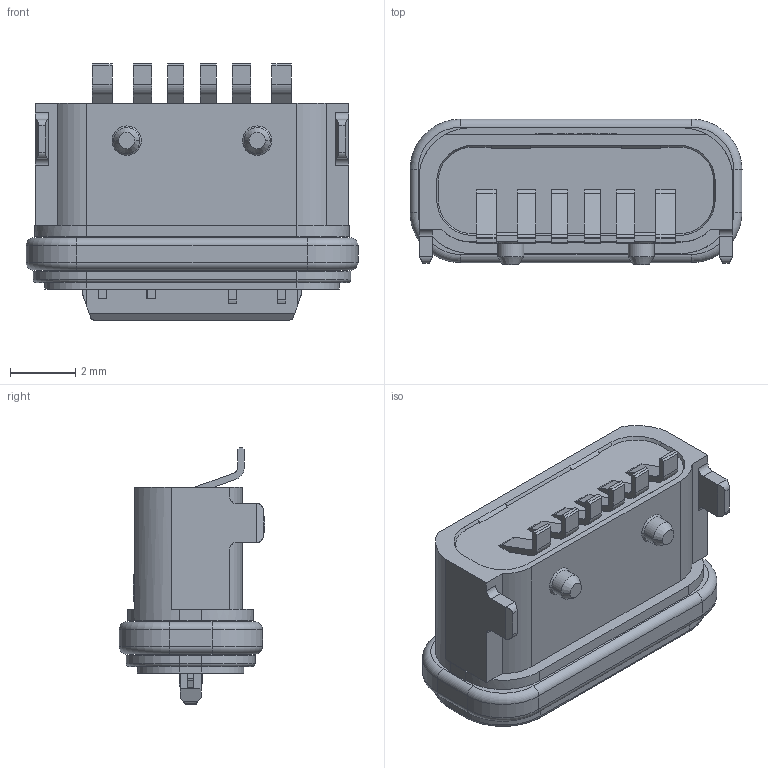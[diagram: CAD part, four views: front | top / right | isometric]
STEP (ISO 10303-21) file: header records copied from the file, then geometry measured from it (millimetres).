
FILE_DESCRIPTION (( 'STEP AP203' ), '1' );
FILE_NAME ('U5005-06PNW6.65LF.STEP', '2026-09-10T09:30:42', ( '' ), ( '' ), 'SwSTEP 2.0', 'SolidWorks 2024', '' );
FILE_SCHEMA (( 'CONFIG_CONTROL_DESIGN' ));
Length unit declared in the file: millimetre
Products named in the file (5): ASM0001_ASM_1_ASM_1_ASM; 1020008_1_1; 1020008_B_ASM_1_ASM; U5005-06PNW6.65LF; 6P_0001_1_1
Assembly tree (4 placements, depth 4):
  U5005-06PNW6.65LF
    1020008_B_ASM_1_ASM
      ASM0001_ASM_1_ASM_1_ASM
        1020008_1_1
        6P_0001_1_1
Bounding box: 10.18 x 4.47 x 7.85 mm (x, y, z)
Volume: 135.9 mm3; surface area: 535 mm2
Topology: 2 solids, 2 shells, 830 faces, 2193 edges, 1424 vertices
Faces by surface type: plane 626, cylinder 131, cone 28, bspline 25, torus 20
Entity records: 27216 total; most frequent: CARTESIAN_POINT 6089, ORIENTED_EDGE 4386, DIRECTION 4053, EDGE_CURVE 2193, VECTOR 1821, LINE 1821, VERTEX_POINT 1424, AXIS2_PLACEMENT_3D 1116
